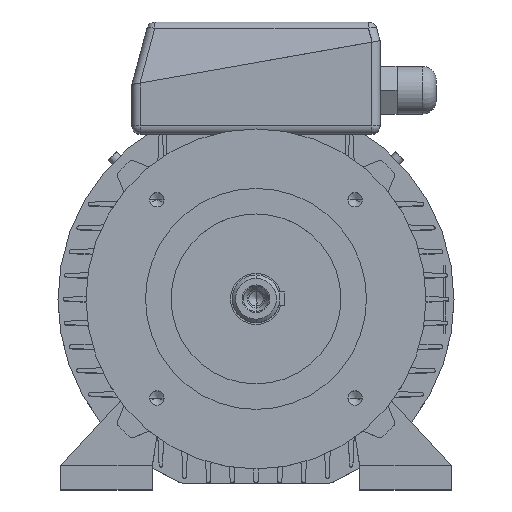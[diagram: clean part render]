
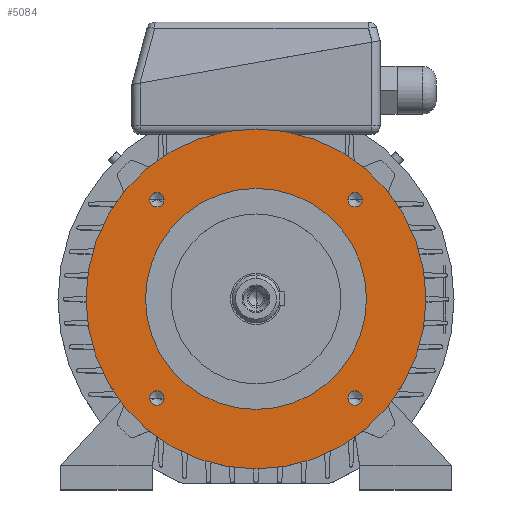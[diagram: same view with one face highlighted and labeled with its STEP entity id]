
A CAD part, top view. The second image highlights one B-rep face of the part: STEP entity #5084.
In plain terms, the highlighted planar face has unit normal (0, 0, 1).
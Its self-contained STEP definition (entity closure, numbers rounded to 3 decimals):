
#16385 = ORIENTED_EDGE ( 'NONE', *, *, #5550, .T. ) ;
#16518 = VERTEX_POINT ( 'NONE', #11142 ) ;
#286 = FACE_BOUND ( 'NONE', #4776, .T. ) ;
#287 = FACE_BOUND ( 'NONE', #2768, .T. ) ;
#288 = FACE_BOUND ( 'NONE', #12360, .T. ) ;
#289 = FACE_BOUND ( 'NONE', #10150, .T. ) ;
#290 = FACE_BOUND ( 'NONE', #8097, .T. ) ;
#293 = VERTEX_POINT ( 'NONE', #17836 ) ;
#296 = FACE_OUTER_BOUND ( 'NONE', #17202, .T. ) ;
#297 = PLANE ( 'NONE',  #298 ) ;
#298 = AXIS2_PLACEMENT_3D ( 'NONE', #299, #300, #301 ) ;
#299 = CARTESIAN_POINT ( 'NONE',  ( 0., 100., 51. ) ) ;
#300 = DIRECTION ( 'NONE',  ( 0., 0., -1. ) ) ;
#301 = DIRECTION ( 'NONE',  ( -1., 0., 0. ) ) ;
#360 = CIRCLE ( 'NONE', #361, 4.25 ) ;
#361 = AXIS2_PLACEMENT_3D ( 'NONE', #362, #363, #364 ) ;
#362 = CARTESIAN_POINT ( 'NONE',  ( 58.336, 58.336, 51. ) ) ;
#363 = DIRECTION ( 'NONE',  ( 0., 0., 1. ) ) ;
#364 = DIRECTION ( 'NONE',  ( 1., 0., 0. ) ) ;
#565 = EDGE_CURVE ( 'NONE', #293, #1869, #18022, .T. ) ;
#17002 = ORIENTED_EDGE ( 'NONE', *, *, #565, .T. ) ;
#745 = CIRCLE ( 'NONE', #746, 100. ) ;
#746 = AXIS2_PLACEMENT_3D ( 'NONE', #750, #751, #752 ) ;
#750 = CARTESIAN_POINT ( 'NONE',  ( 0., 0., 51. ) ) ;
#751 = DIRECTION ( 'NONE',  ( 0., 0., 1. ) ) ;
#752 = DIRECTION ( 'NONE',  ( 1., 0., 0. ) ) ;
#17202 = EDGE_LOOP ( 'NONE', ( #17002, #16385 ) ) ;
#17285 = EDGE_CURVE ( 'NONE', #9522, #9804, #12239, .T. ) ;
#17399 = ORIENTED_EDGE ( 'NONE', *, *, #17285, .F. ) ;
#17565 = ORIENTED_EDGE ( 'NONE', *, *, #10081, .F. ) ;
#1220 = CARTESIAN_POINT ( 'NONE',  ( 54.086, 58.336, 51. ) ) ;
#17836 = CARTESIAN_POINT ( 'NONE',  ( 100., 0., 51. ) ) ;
#18022 = CIRCLE ( 'NONE', #18023, 100. ) ;
#18023 = AXIS2_PLACEMENT_3D ( 'NONE', #18024, #18025, #18026 ) ;
#18024 = CARTESIAN_POINT ( 'NONE',  ( 0., 0., 51. ) ) ;
#18025 = DIRECTION ( 'NONE',  ( 0., 0., 1. ) ) ;
#18026 = DIRECTION ( 'NONE',  ( 1., 0., 0. ) ) ;
#1869 = VERTEX_POINT ( 'NONE', #19118 ) ;
#2131 = ORIENTED_EDGE ( 'NONE', *, *, #13286, .F. ) ;
#19118 = CARTESIAN_POINT ( 'NONE',  ( -100., 0., 51. ) ) ;
#2768 = EDGE_LOOP ( 'NONE', ( #2131, #12653 ) ) ;
#3086 = ORIENTED_EDGE ( 'NONE', *, *, #15445, .F. ) ;
#3649 = CIRCLE ( 'NONE', #3650, 4.25 ) ;
#3650 = AXIS2_PLACEMENT_3D ( 'NONE', #3651, #3652, #3653 ) ;
#3651 = CARTESIAN_POINT ( 'NONE',  ( -58.336, -58.336, 51. ) ) ;
#3652 = DIRECTION ( 'NONE',  ( 0., 0., 1. ) ) ;
#3653 = DIRECTION ( 'NONE',  ( 1., 0., 0. ) ) ;
#3708 = EDGE_CURVE ( 'NONE', #15177, #16518, #20585, .T. ) ;
#4105 = CARTESIAN_POINT ( 'NONE',  ( -65., 0., 51. ) ) ;
#4143 = ORIENTED_EDGE ( 'NONE', *, *, #3708, .F. ) ;
#20585 = CIRCLE ( 'NONE', #20586, 4.25 ) ;
#20586 = AXIS2_PLACEMENT_3D ( 'NONE', #20587, #20593, #20594 ) ;
#20587 = CARTESIAN_POINT ( 'NONE',  ( -58.336, 58.336, 51. ) ) ;
#20593 = DIRECTION ( 'NONE',  ( 0., 0., 1. ) ) ;
#20594 = DIRECTION ( 'NONE',  ( 1., 0., 0. ) ) ;
#4288 = CARTESIAN_POINT ( 'NONE',  ( 65., 0., 51. ) ) ;
#4546 = CIRCLE ( 'NONE', #4547, 65. ) ;
#4547 = AXIS2_PLACEMENT_3D ( 'NONE', #4548, #4549, #4554 ) ;
#4548 = CARTESIAN_POINT ( 'NONE',  ( 0., 0., 51. ) ) ;
#4549 = DIRECTION ( 'NONE',  ( 0., 0., 1. ) ) ;
#4554 = DIRECTION ( 'NONE',  ( 1., 0., 0. ) ) ;
#4776 = EDGE_LOOP ( 'NONE', ( #4143, #3086 ) ) ;
#4846 = VERTEX_POINT ( 'NONE', #21578 ) ;
#5084 = ADVANCED_FACE ( 'NONE', ( #286, #287, #288, #289, #290, #296 ), #297, .F. ) ;
#5128 = EDGE_CURVE ( 'NONE', #6205, #4846, #360, .T. ) ;
#21578 = CARTESIAN_POINT ( 'NONE',  ( 62.586, 58.336, 51. ) ) ;
#5448 = CIRCLE ( 'NONE', #5449, 4.25 ) ;
#5449 = AXIS2_PLACEMENT_3D ( 'NONE', #5450, #5451, #5452 ) ;
#5450 = CARTESIAN_POINT ( 'NONE',  ( 58.336, -58.336, 51. ) ) ;
#5451 = DIRECTION ( 'NONE',  ( 0., 0., 1. ) ) ;
#5452 = DIRECTION ( 'NONE',  ( 1., 0., 0. ) ) ;
#5550 = EDGE_CURVE ( 'NONE', #1869, #293, #745, .T. ) ;
#6205 = VERTEX_POINT ( 'NONE', #1220 ) ;
#7251 = CARTESIAN_POINT ( 'NONE',  ( -54.086, -58.336, 51. ) ) ;
#7394 = CIRCLE ( 'NONE', #7395, 4.25 ) ;
#7395 = AXIS2_PLACEMENT_3D ( 'NONE', #7396, #7397, #7398 ) ;
#7396 = CARTESIAN_POINT ( 'NONE',  ( -58.336, -58.336, 51. ) ) ;
#7397 = DIRECTION ( 'NONE',  ( 0., 0., 1. ) ) ;
#7398 = DIRECTION ( 'NONE',  ( 1., 0., 0. ) ) ;
#7412 = CIRCLE ( 'NONE', #7413, 4.25 ) ;
#7413 = AXIS2_PLACEMENT_3D ( 'NONE', #7414, #7415, #7416 ) ;
#7414 = CARTESIAN_POINT ( 'NONE',  ( 58.336, 58.336, 51. ) ) ;
#7415 = DIRECTION ( 'NONE',  ( 0., 0., 1. ) ) ;
#7416 = DIRECTION ( 'NONE',  ( 1., 0., 0. ) ) ;
#8097 = EDGE_LOOP ( 'NONE', ( #17565, #17399 ) ) ;
#8389 = ORIENTED_EDGE ( 'NONE', *, *, #13282, .F. ) ;
#8489 = CARTESIAN_POINT ( 'NONE',  ( -62.586, -58.336, 51. ) ) ;
#8883 = CARTESIAN_POINT ( 'NONE',  ( 62.586, -58.336, 51. ) ) ;
#9038 = EDGE_CURVE ( 'NONE', #13014, #14353, #3649, .T. ) ;
#9127 = CIRCLE ( 'NONE', #9128, 4.25 ) ;
#9128 = AXIS2_PLACEMENT_3D ( 'NONE', #9129, #9134, #9135 ) ;
#9129 = CARTESIAN_POINT ( 'NONE',  ( 58.336, -58.336, 51. ) ) ;
#9134 = DIRECTION ( 'NONE',  ( 0., 0., 1. ) ) ;
#9135 = DIRECTION ( 'NONE',  ( 1., 0., 0. ) ) ;
#9302 = CARTESIAN_POINT ( 'NONE',  ( -54.086, 58.336, 51. ) ) ;
#9499 = ORIENTED_EDGE ( 'NONE', *, *, #9038, .F. ) ;
#9522 = VERTEX_POINT ( 'NONE', #4105 ) ;
#9532 = CIRCLE ( 'NONE', #9533, 4.25 ) ;
#9533 = AXIS2_PLACEMENT_3D ( 'NONE', #9534, #9535, #9536 ) ;
#9534 = CARTESIAN_POINT ( 'NONE',  ( -58.336, 58.336, 51. ) ) ;
#9535 = DIRECTION ( 'NONE',  ( 0., 0., 1. ) ) ;
#9536 = DIRECTION ( 'NONE',  ( 1., 0., 0. ) ) ;
#9804 = VERTEX_POINT ( 'NONE', #4288 ) ;
#10081 = EDGE_CURVE ( 'NONE', #9804, #9522, #4546, .T. ) ;
#10150 = EDGE_LOOP ( 'NONE', ( #9499, #8389 ) ) ;
#10445 = ORIENTED_EDGE ( 'NONE', *, *, #15010, .F. ) ;
#10845 = CARTESIAN_POINT ( 'NONE',  ( 54.086, -58.336, 51. ) ) ;
#11074 = EDGE_CURVE ( 'NONE', #14737, #16094, #5448, .T. ) ;
#11142 = CARTESIAN_POINT ( 'NONE',  ( -62.586, 58.336, 51. ) ) ;
#11534 = ORIENTED_EDGE ( 'NONE', *, *, #11074, .F. ) ;
#12239 = CIRCLE ( 'NONE', #12240, 65. ) ;
#12240 = AXIS2_PLACEMENT_3D ( 'NONE', #12241, #12250, #12251 ) ;
#12241 = CARTESIAN_POINT ( 'NONE',  ( 0., 0., 51. ) ) ;
#12250 = DIRECTION ( 'NONE',  ( 0., 0., 1. ) ) ;
#12251 = DIRECTION ( 'NONE',  ( 1., 0., 0. ) ) ;
#12360 = EDGE_LOOP ( 'NONE', ( #11534, #10445 ) ) ;
#12653 = ORIENTED_EDGE ( 'NONE', *, *, #5128, .F. ) ;
#13014 = VERTEX_POINT ( 'NONE', #7251 ) ;
#13282 = EDGE_CURVE ( 'NONE', #14353, #13014, #7394, .T. ) ;
#13286 = EDGE_CURVE ( 'NONE', #4846, #6205, #7412, .T. ) ;
#14353 = VERTEX_POINT ( 'NONE', #8489 ) ;
#14737 = VERTEX_POINT ( 'NONE', #8883 ) ;
#15010 = EDGE_CURVE ( 'NONE', #16094, #14737, #9127, .T. ) ;
#15177 = VERTEX_POINT ( 'NONE', #9302 ) ;
#15445 = EDGE_CURVE ( 'NONE', #16518, #15177, #9532, .T. ) ;
#16094 = VERTEX_POINT ( 'NONE', #10845 ) ;
